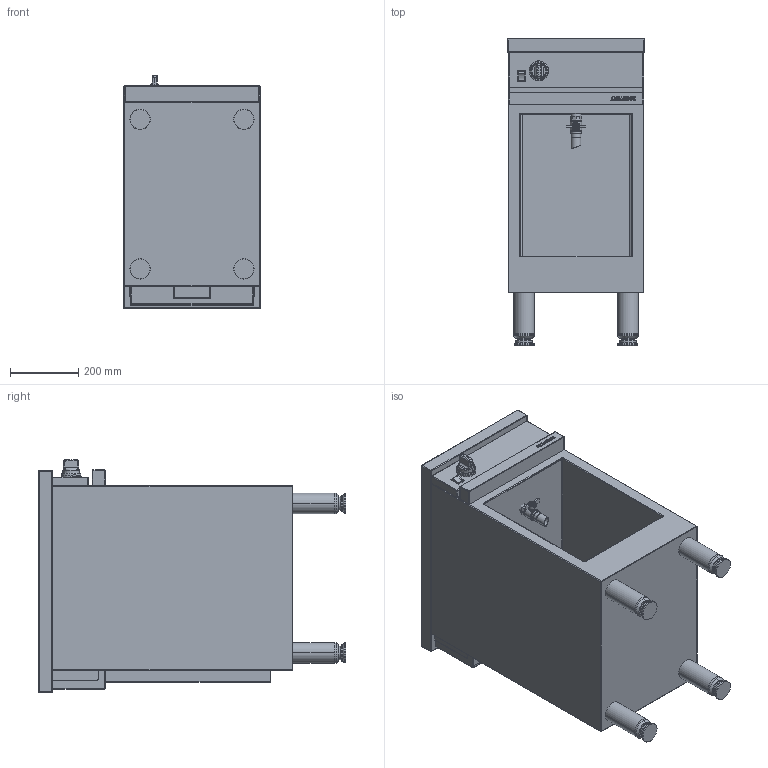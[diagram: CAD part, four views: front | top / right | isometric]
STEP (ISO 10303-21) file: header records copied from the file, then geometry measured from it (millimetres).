
FILE_DESCRIPTION((''),'2;1');
FILE_NAME('CME410M_EXPORT_STEP_ASM','2017-11-22T',('r.avril'),(''),'PRO/ENGINEER BY PARAMETRIC TECHNOLOGY CORPORATION, 2014200','PRO/ENGINEER BY PARAMETRIC TECHNOLOGY CORPORATION, 2014200','');
FILE_SCHEMA(('AP203_CONFIGURATION_CONTROLLED_3D_DESIGN_OF_MECHANICAL_PARTS_AND_ASSEMBLIES_MIM_LF { 1 0 10303 403 2 1 2 }'));
Length unit declared in the file: millimetre
Products named in the file (9): MODULES_AMB_400_EXPORT_STEP; TABLE_CME_410_M; 65101004; 65101004_MANETTE_VANNE; 65101004_ASM; TABLE_CME_410_M_ASM; MANETTE_AMB_EXPORT_STEP; BASCULEUR_AMB_EXPORT_DXF; CME410M_EXPORT_STEP_ASM
Assembly tree (8 placements, depth 4):
  CME410M_EXPORT_STEP_ASM
    MODULES_AMB_400_EXPORT_STEP
    TABLE_CME_410_M_ASM
      TABLE_CME_410_M
      65101004_ASM
        65101004
        65101004_MANETTE_VANNE
    MANETTE_AMB_EXPORT_STEP
    BASCULEUR_AMB_EXPORT_DXF
Bounding box: 400 x 901 x 682.5 mm (x, y, z)
Volume: 53158106.9 mm3; surface area: 4426728.6 mm2
Topology: 13 solids, 31 shells, 637 faces, 2045 edges, 1757 vertices
Faces by surface type: cylinder 268, plane 241, sphere 42, torus 42, cone 32, bspline 12
Entity records: 29599 total; most frequent: CARTESIAN_POINT 6914, DIRECTION 3821, ORIENTED_EDGE 3152, EDGE_CURVE 1801, AXIS2_PLACEMENT_3D 1406, VERTEX_POINT 1273, VECTOR 982, LINE 982
